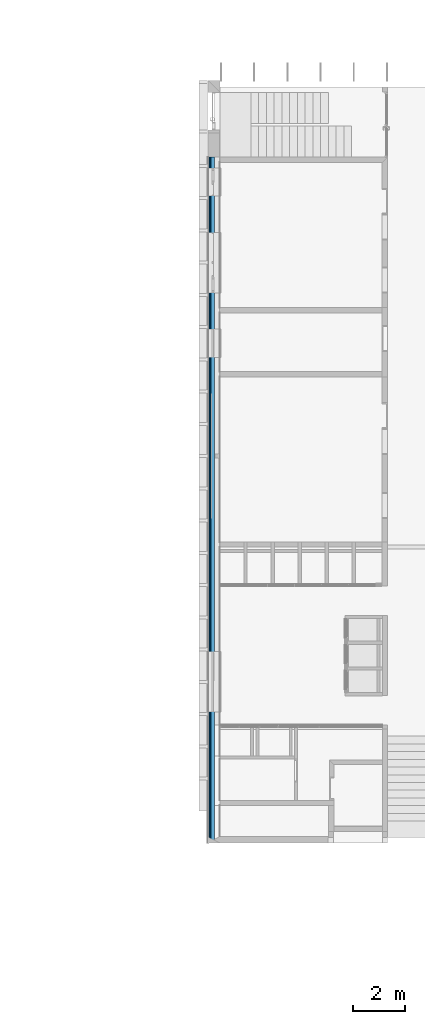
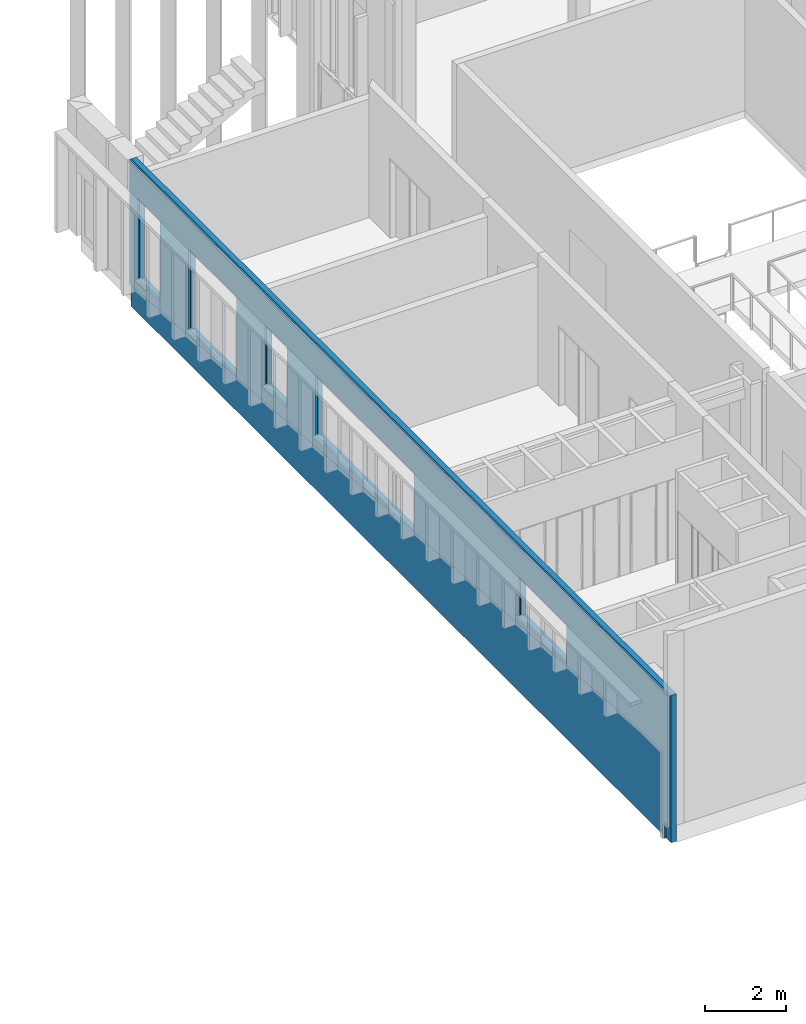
# One storey, part 80 of 89: 2 building element parts, 5 openings, 1 element without a shape of its own.
"""IFC2X3 building model written with IfcOpenShell, lengths in millimetres."""

from ifc_helpers import new_model, entity, si_unit, converted_unit, derived_unit, money_unit, direction, frame, origin_with_axes, origin_2d_with_axis, place, context, subcontext, project, spatial, polyline, rectangle, outline, extrude, boolean, faceted_brep, material, type_object, element, aggregate, save


model = new_model("IFC2X3")

# Units and contexts
model_context = context("Model", 3, precision=0.01, world=origin_with_axes(), true_north=direction((0.0, 1.0)))
body_context = subcontext(model_context, "Body", "Model", "MODEL_VIEW")
ifc_project = project(units=[si_unit("LENGTHUNIT", "METRE", prefix="MILLI"), si_unit("AREAUNIT", "SQUARE_METRE"), si_unit("VOLUMEUNIT", "CUBIC_METRE"), converted_unit("PLANEANGLEUNIT", "DEGREE", entity("IfcPlaneAngleMeasure", 0.0174532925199), si_unit("PLANEANGLEUNIT", "RADIAN"), dimensions=[0, 0, 0, 0, 0, 0, 0]), si_unit("SOLIDANGLEUNIT", "STERADIAN"), money_unit("EUR"), converted_unit("TIMEUNIT", "Year", entity("IfcTimeMeasure", 31556926.0), si_unit("TIMEUNIT", "SECOND"), dimensions=[0, 0, 1, 0, 0, 0, 0]), si_unit("MASSUNIT", "GRAM", prefix="KILO"), si_unit("THERMODYNAMICTEMPERATUREUNIT", "DEGREE_CELSIUS"), si_unit("LUMINOUSINTENSITYUNIT", "LUMEN"), si_unit("ENERGYUNIT", "JOULE", prefix="MEGA"), derived_unit("THERMALCONDUCTANCEUNIT", [(si_unit("POWERUNIT", "WATT"), 1), (si_unit("LENGTHUNIT", "METRE"), -1), (si_unit("THERMODYNAMICTEMPERATUREUNIT", "KELVIN"), -1)]), derived_unit("SPECIFICHEATCAPACITYUNIT", [(si_unit("ENERGYUNIT", "JOULE"), 1), (si_unit("MASSUNIT", "GRAM", prefix="KILO"), -1), (si_unit("THERMODYNAMICTEMPERATUREUNIT", "KELVIN"), -1)]), derived_unit("MASSDENSITYUNIT", [(si_unit("MASSUNIT", "GRAM", prefix="KILO"), 1), (si_unit("VOLUMEUNIT", "CUBIC_METRE"), -1)])], contexts=[model_context])

# Site, building, storey
site_placement = place(None, origin_with_axes())
site = spatial("IfcSite", under=ifc_project, at=site_placement, Name="Puškini 31, Narva", CompositionType="ELEMENT")
building_placement = place(site_placement, origin_with_axes())
building = spatial("IfcBuilding", under=site, at=building_placement, Name="Narva Riigigümnaasium", CompositionType="ELEMENT")
storey_placement = place(building_placement, frame((0.0, 0.0, -3300.0), z_axis=(0.0, 0.0, 1.0), x_axis=(1.0, 0.0, 0.0)))
storey = spatial("IfcBuildingStorey", under=building, at=storey_placement, Name="1.korrus -3.3", CompositionType="ELEMENT", Elevation=-3300.0)

# Wall, openings, building element parts
wall_type = type_object("IfcWallType", Name="G-VS-01 468", PredefinedType="NOTDEFINED")
wall_placement = place(storey_placement, frame((28400.0401775, 194950.0, -470.0), z_axis=(0.0, 0.0, 1.0), x_axis=(0.0, 1.0, 0.0)))
wall = element("IfcWall", 1, at=wall_placement, inside=storey, type_object=wall_type, Name="Välissein")
opening_1_placement = place(wall_placement, frame((22239.786406, 0.0, 1070.0), z_axis=(0.0, 0.0, 1.0), x_axis=(1.0, 0.0, 0.0)))
element("IfcOpeningElement", 2, at=opening_1_placement, cuts=wall, Name="G-A-13", context=body_context, shape_type="SweptSolid", body=[
    extrude(rectangle(XDim=2349.99999895, YDim=2430.0, at=origin_2d_with_axis()), frame((0.0, 308.0, 1215.0), z_axis=(0.0, -1.0, 0.0), x_axis=(1.0, 0.0, 0.0)), (0.0, 0.0, 1.0), 786.0),
    extrude(rectangle(XDim=2349.99999895, YDim=2430.0, at=origin_2d_with_axis()), frame((0.0, 308.0, 1215.0), z_axis=(0.0, 1.0, 0.0), x_axis=(1.0, 0.0, 0.0)), (0.0, 0.0, 1.0), 618.0),
])
opening_2_placement = place(wall_placement, frame((5989.77846398, 0.0, 2320.0), z_axis=(0.0, 0.0, 1.0), x_axis=(1.0, 0.0, 0.0)))
element("IfcOpeningElement", 3, at=opening_2_placement, cuts=wall, Name="G-A-31", context=body_context, shape_type="SweptSolid", body=[
    extrude(rectangle(XDim=2350.00149091, YDim=1180.0, at=origin_2d_with_axis()), frame((0.0, 308.0, 590.0), z_axis=(0.0, 1.0, 0.0), x_axis=(-1.0, 0.0, 0.0)), (0.0, 0.0, -1.0), 786.0),
    extrude(rectangle(XDim=2350.00149091, YDim=1180.0, at=origin_2d_with_axis()), frame((0.0, 308.0, 590.0), z_axis=(0.0, -1.0, 0.0), x_axis=(-1.0, 0.0, 0.0)), (0.0, 0.0, -1.0), 618.0),
])
opening_3_placement = place(wall_placement, frame((19114.7792041, 0.0, 1680.0), z_axis=(0.0, 0.0, 1.0), x_axis=(1.0, 0.0, 0.0)))
element("IfcOpeningElement", 4, at=opening_3_placement, cuts=wall, Name="G-A-28", context=body_context, shape_type="SweptSolid", body=[
    extrude(rectangle(XDim=1099.99999951, YDim=1820.0, at=origin_2d_with_axis()), frame((0.0, 308.0, 910.0), z_axis=(0.0, 1.0, 0.0), x_axis=(-1.0, 0.0, 0.0)), (0.0, 0.0, -1.0), 786.0),
    extrude(rectangle(XDim=1099.99999951, YDim=1820.0, at=origin_2d_with_axis()), frame((0.0, 308.0, 910.0), z_axis=(0.0, -1.0, 0.0), x_axis=(-1.0, 0.0, 0.0)), (0.0, 0.0, -1.0), 618.0),
])
opening_4_placement = place(wall_placement, frame((25364.7792014, 0.0, 1070.0), z_axis=(0.0, 0.0, 1.0), x_axis=(1.0, 0.0, 0.0)))
element("IfcOpeningElement", 5, at=opening_4_placement, cuts=wall, Name="G-A-03", context=body_context, shape_type="SweptSolid", body=[
    extrude(rectangle(XDim=1099.99999951, YDim=2430.0, at=origin_2d_with_axis()), frame((0.0, 308.0, 1215.0), z_axis=(0.0, 1.0, 0.0), x_axis=(-1.0, 0.0, 0.0)), (0.0, 0.0, -1.0), 786.0),
    extrude(rectangle(XDim=1099.99999951, YDim=2430.0, at=origin_2d_with_axis()), frame((0.0, 308.0, 1215.0), z_axis=(0.0, -1.0, 0.0), x_axis=(-1.0, 0.0, 0.0)), (0.0, 0.0, -1.0), 618.0),
])
opening_5_placement = place(wall_placement, frame((14739.7780345, 0.0, 1680.0), z_axis=(0.0, 0.0, 1.0), x_axis=(1.0, 0.0, 0.0)))
element("IfcOpeningElement", 6, at=opening_5_placement, cuts=wall, Name="G-A-32", context=body_context, shape_type="SweptSolid", body=[
    extrude(rectangle(XDim=4850.0, YDim=1820.0, at=origin_2d_with_axis()), frame((0.0, 308.0, 910.0), z_axis=(0.0, 1.0, 0.0), x_axis=(-1.0, 0.0, 0.0)), (0.0, 0.0, -1.0), 786.0),
    extrude(rectangle(XDim=4850.0, YDim=1820.0, at=origin_2d_with_axis()), frame((0.0, 308.0, 910.0), z_axis=(0.0, -1.0, 0.0), x_axis=(-1.0, 0.0, 0.0)), (0.0, 0.0, -1.0), 618.0),
])
ifc_material = material(Name="Salto-PIR soojustus")
building_element_part_1_placement = place(wall_placement, origin_with_axes())
solid_1 = boolean("DIFFERENCE", boolean("DIFFERENCE", boolean("DIFFERENCE", boolean("DIFFERENCE", boolean("DIFFERENCE", boolean("DIFFERENCE", boolean("DIFFERENCE", boolean("DIFFERENCE", extrude(outline(polyline([(-250.000000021, 200.0), (26329.9999995, 200.0), (26329.9999995, 350.0), (-250.000000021, 350.0), (-250.000000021, 200.0)])), frame((0.0, 0.0, -3.77662452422e-05), z_axis=(0.0, 0.0, 1.0), x_axis=(1.0, 0.0, 0.0)), (0.0, 0.0, 1.0), 4430.00003777), faceted_brep([(1190.52853669, 0.0, 4025.0), (1190.52853669, 0.0, 4430.0), (26329.9999995, 0.0, 4430.0), (26329.9999995, 0.0, -3.77662452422e-05), (-250.000000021, 0.0, -3.77662452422e-05), (-250.000000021, 0.0, 4430.0), (2.070521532e-07, 0.0, 4430.0), (2.070521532e-07, 0.0, 470.0), (1049.7643016, 0.0, 470.0), (1049.7643016, 0.0, 2544.59009685), (1199.99999458, 0.0, 2533.56443721), (1199.99999458, 0.0, 4025.0), (1399.99999458, 0.0, 2518.88662074), (3009.99970185, 0.0, 2400.73021962), (3009.99970185, 0.0, 4025.0), (1399.99999458, 0.0, 4025.0), (3109.99970185, 0.0, 2393.39131138), (11024.9997106, 0.0, 1812.51672386), (11024.9997106, 0.0, 4025.0), (9809.99971924, 0.0, 4025.0), (9809.99971924, 0.0, 2870.0), (9709.99971924, 0.0, 2870.0), (9709.99971924, 0.0, 4025.0), (4309.99971617, 0.0, 4025.0), (4309.99971617, 0.0, 2870.0), (4159.99971617, 0.0, 2870.0), (4159.99971617, 0.0, 4025.0), (3109.99970185, 0.0, 4025.0), (11115.4997106, 0.0, 1805.87501191), (11209.9997093, 0.0, 1798.93974372), (11209.9997107, 0.0, 4025.0), (11115.4997106, 0.0, 4025.0), (11409.9997107, 0.0, 1784.26192714), (17820.0010182, 0.0, 1313.83781325), (17820.0010182, 0.0, 4025.0), (11409.9997107, 0.0, 4025.0), (18020.0010182, 0.0, 1299.15999678), (20290.0000006, 0.0, 1132.56685451), (20290.0000006, 0.0, 4025.0), (18020.0010182, 0.0, 4025.0), (20500.0000006, 0.0, 1117.15514721), (26129.9999995, 0.0, 703.974613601), (26129.9999995, 0.0, 4025.0), (20500.0000006, 0.0, 4025.0), (1190.52734088, -10.0, 4025.0), (1190.52734088, -10.0, 4430.0), (26329.9999995, -10.0, 4430.0), (26329.9999995, -10.0, -3.77662452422e-05), (-250.000000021, -10.0, -3.77662452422e-05), (-250.000000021, -10.0, 4430.0), (2.070521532e-07, -10.0, 4430.0), (2.070521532e-07, -10.0, 470.0), (1049.7643016, -10.0, 470.0), (1049.7643016, -10.0, 2544.59009685), (1199.99999458, -10.0, 2533.56443721), (1199.99999458, -10.0, 4025.0), (1399.99999458, -10.0, 2518.88662074), (3009.99970185, -10.0, 2400.73021962), (3009.99970185, -10.0, 4025.0), (1399.99999458, -10.0, 4025.0), (3109.99970185, -10.0, 2393.39131138), (11024.9997106, -10.0, 1812.51672386), (11024.9997106, -10.0, 4025.0), (9809.99971924, -10.0, 4025.0), (9809.99971924, -10.0, 2870.0), (9709.99971924, -10.0, 2870.0), (9709.99971924, -10.0, 4025.0), (4309.99971617, -10.0, 4025.0), (4309.99971617, -10.0, 2870.0), (4159.99971617, -10.0, 2870.0), (4159.99971617, -10.0, 4025.0), (3109.99970185, -10.0, 4025.0), (11115.4997106, -10.0, 1805.87501191), (11209.9997093, -10.0, 1798.93974372), (11209.9997107, -10.0, 4025.0), (11115.4997106, -10.0, 4025.0), (11409.9997107, -10.0, 1784.26192714), (17820.0010182, -10.0, 1313.83781325), (17820.0010182, -10.0, 4025.0), (11409.9997107, -10.0, 4025.0), (18020.0010182, -10.0, 1299.15999678), (20290.0000006, -10.0, 1132.56685451), (20290.0000006, -10.0, 4025.0), (18020.0010182, -10.0, 4025.0), (20500.0000006, -10.0, 1117.15514721), (26129.9999995, -10.0, 703.974613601), (26129.9999995, -10.0, 4025.0), (20500.0000006, -10.0, 4025.0)], [[[0, 1, 2, 3, 4, 5, 6, 7, 8, 9, 10, 11], [12, 13, 14, 15], [16, 17, 18, 19, 20, 21, 22, 23, 24, 25, 26, 27], [28, 29, 30, 31], [32, 33, 34, 35], [36, 37, 38, 39], [40, 41, 42, 43]], [[44, 45, 1, 0]], [[1, 45, 46, 2]], [[2, 46, 47, 3]], [[3, 47, 48, 4]], [[49, 5, 4, 48]], [[50, 6, 5, 49]], [[6, 50, 51, 7]], [[51, 52, 8, 7]], [[52, 53, 9, 8]], [[53, 54, 10, 9]], [[54, 55, 11, 10]], [[55, 44, 0, 11]], [[56, 57, 13, 12]], [[57, 58, 14, 13]], [[58, 59, 15, 14]], [[59, 56, 12, 15]], [[60, 61, 17, 16]], [[61, 62, 18, 17]], [[62, 63, 19, 18]], [[63, 64, 20, 19]], [[64, 65, 21, 20]], [[65, 66, 22, 21]], [[66, 67, 23, 22]], [[67, 68, 24, 23]], [[68, 69, 25, 24]], [[69, 70, 26, 25]], [[70, 71, 27, 26]], [[71, 60, 16, 27]], [[72, 73, 29, 28]], [[73, 74, 30, 29]], [[74, 75, 31, 30]], [[75, 72, 28, 31]], [[76, 77, 33, 32]], [[77, 78, 34, 33]], [[78, 79, 35, 34]], [[79, 76, 32, 35]], [[80, 81, 37, 36]], [[81, 82, 38, 37]], [[82, 83, 39, 38]], [[83, 80, 36, 39]], [[84, 85, 41, 40]], [[85, 86, 42, 41]], [[86, 87, 43, 42]], [[87, 84, 40, 43]], [[45, 44, 55, 54, 53, 52, 51, 50, 49, 48, 47, 46], [64, 63, 62, 61, 60, 71, 70, 69, 68, 67, 66, 65], [56, 59, 58, 57], [72, 75, 74, 73], [76, 79, 78, 77], [80, 83, 82, 81], [84, 87, 86, 85]]])), faceted_brep([(0.0, 0.0, 0.0), (2.070521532e-07, 0.0, 470.0), (2.070521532e-07, 0.0, 4430.0), (-250.000000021, 0.0, 4430.0), (-250.000000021, 0.0, -3.77662452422e-05), (0.0, 200.0, 0.0), (2.070521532e-07, 200.0, 470.0), (2.070521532e-07, 200.0, 4430.0), (-250.000000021, 200.0, 4430.0), (-250.000000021, 200.0, -3.77662452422e-05)], [[[0, 1, 2, 3, 4]], [[1, 0, 5, 6]], [[7, 2, 1, 6]], [[2, 7, 8, 3]], [[3, 8, 9, 4]], [[5, 0, 4, 9]], [[6, 5, 9, 8, 7]]])), faceted_brep([(20500.0000006, 0.0, 4025.0), (26329.9999807, 0.0, 4025.0), (26329.9999995, 0.0, 4430.0), (1190.52853669, 0.0, 4430.0), (1190.52853669, 0.0, 4025.0), (20300.0000006, 0.0, 4025.0), (20300.0000006, 0.0, 1131.83296368), (20290.0000006, 0.0, 1132.56685451), (18020.0010182, 0.0, 1299.15999678), (17820.0010182, 0.0, 1313.83781325), (11409.9997107, 0.0, 1784.26192714), (11209.9997093, 0.0, 1798.93974372), (11115.4997106, 0.0, 1805.87501191), (11024.9997106, 0.0, 1812.51672386), (3109.99970185, 0.0, 2393.39131138), (3009.99970185, 0.0, 2400.73021962), (1399.99999458, 0.0, 2518.88662074), (1199.99999458, 0.0, 2533.56443721), (1049.7643016, 0.0, 2544.59009685), (1049.7643016, 0.0, 470.0), (1049.7643016, 0.0, 0.0), (26329.9999995, 0.0, -3.77662452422e-05), (26329.9999959, 0.0, 689.296797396), (26129.9999995, 0.0, 703.974613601), (20500.0000006, 0.0, 1117.15514721), (26329.9999807, 200.0, 4025.0), (20500.0000006, 0.53657374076, 4025.0), (20300.0000006, 0.53657374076, 4025.0), (1190.55245282, 200.0, 4025.0), (26329.9999995, 200.0, 4430.0), (1190.55245282, 200.0, 4430.0), (20300.0000006, 0.53657374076, 1131.83296368), (26329.9999974, 200.0, 689.29679728), (1049.7643016, 200.0, 2544.59009685), (1049.7643016, 76.496918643, 2544.59009685), (20500.0000006, 0.53657374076, 1117.15514721), (1049.7643016, 76.496918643, -3.77662452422e-05), (126.000000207, 76.496918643, -3.77662452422e-05), (126.000000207, 200.0, -3.77662452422e-05), (26329.9999995, 200.0, -3.77662452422e-05), (126.000000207, 200.0, 2544.59009685), (126.000000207, 76.496918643, 2544.59009685)], [[[0, 1, 2, 3, 4, 5, 6, 7, 8, 9, 10, 11, 12, 13, 14, 15, 16, 17, 18, 19, 20, 21, 22, 23, 24]], [[25, 1, 0, 26, 27, 5, 4, 28]], [[1, 25, 29, 2]], [[30, 3, 2, 29]], [[3, 30, 28, 4]], [[6, 5, 27, 31]], [[23, 22, 32, 33, 34, 18, 17, 16, 15, 14, 13, 12, 11, 10, 9, 8, 7, 6, 31, 35, 24]], [[19, 18, 34, 36, 20]], [[37, 38, 39, 21, 20, 36]], [[32, 22, 21, 39]], [[26, 0, 24, 35]], [[27, 26, 35, 31]], [[28, 30, 29, 25]], [[33, 32, 39, 38, 40]], [[33, 40, 41, 34]], [[37, 36, 34, 41]], [[38, 37, 41, 40]]])), faceted_brep([(14664.7643016, 25.3626792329, 3570.0), (14664.7643016, 25.3626792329, 1580.0), (14814.7643016, 25.3626792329, 1580.0), (14814.7643016, 25.3626792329, 3570.0), (14664.7643016, 175.362679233, 3570.0), (14664.7643016, 175.362679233, 1580.0), (14814.7643016, 175.362679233, 1580.0), (14814.7643016, 175.362679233, 3570.0)], [[[0, 1, 2, 3]], [[4, 5, 1, 0]], [[2, 1, 5, 6]], [[3, 2, 6, 7]], [[4, 0, 3, 7]], [[7, 6, 5, 4]]])), faceted_brep([(2.070521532e-07, 200.0, 470.0), (-249.999999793, 200.0, 470.0), (-250.000000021, 200.0, -3.77662452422e-05), (0.0, 200.0, 0.0), (5.17559328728e-08, 350.0, 470.0), (-249.999999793, 350.0, 470.0), (-250.000000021, 350.0, -3.77662452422e-05), (0.0, 350.0, 0.0)], [[[0, 1, 2, 3]], [[1, 0, 4, 5]], [[1, 5, 6, 2]], [[7, 3, 2, 6]], [[0, 3, 7, 4]], [[4, 7, 6, 5]]])), faceted_brep([(26329.9999986, 350.0, 689.296797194), (26329.9999974, 200.0, 689.29679728), (26329.9999995, 200.0, -3.77662452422e-05), (26329.9999995, 350.0, -3.77662452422e-05), (1049.7643016, 200.0, 2544.59009685), (1049.7643016, 350.0, 2544.59009685), (126.000000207, 200.0, 2544.59009685), (126.000000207, 200.0, -3.77662452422e-05), (126.000000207, 350.0, -3.77662452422e-05), (126.000000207, 350.0, 2544.59009685)], [[[0, 1, 2, 3]], [[4, 1, 0, 5]], [[6, 7, 2, 1, 4]], [[7, 8, 3, 2]], [[5, 0, 3, 8, 9]], [[6, 4, 5, 9]], [[7, 6, 9, 8]]])), faceted_brep([(1190.55245282, 200.0, 4430.0), (1190.55245282, 200.0, 4025.0), (26329.9999807, 200.0, 4025.0), (26329.9999995, 200.0, 4430.0), (1190.56670296, 319.167572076, 4430.0), (1190.56670296, 319.167572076, 4025.0), (26329.9999807, 200.721723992, 4025.0), (1550.00000039, 319.151333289, 4025.0), (5649.99999723, 318.966099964, 4025.0), (5649.99999723, 200.721723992, 4025.0), (26329.9999807, 200.721723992, 4430.0), (5649.99999723, 200.721723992, 4430.0), (5649.99999723, 319.15132641, 4430.0), (1550.00000039, 319.151333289, 4430.0), (1550.00000039, 319.151333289, 4290.0), (5649.99999723, 318.966099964, 4290.0), (5649.99999723, 319.15132641, 4290.0)], [[[0, 1, 2, 3]], [[0, 4, 5, 1]], [[6, 2, 1, 5, 7, 8, 9]], [[6, 10, 3, 2]], [[4, 0, 3, 10, 11, 12, 13]], [[4, 13, 14, 7, 5]], [[15, 8, 7, 14]], [[12, 11, 9, 8, 15, 16]], [[11, 10, 6, 9]], [[13, 12, 16, 14]], [[16, 15, 14]]])), faceted_brep([(5.17559328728e-08, 350.0, 470.0), (-249.999999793, 350.0, 470.0), (-250.000000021, 350.0, -3.77662452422e-05), (0.0, 350.0, 0.0), (0.0, 400.0, 470.0), (-249.999999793, 400.0, 470.0), (-250.000000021, 400.0, -3.77662452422e-05), (0.0, 400.0, 0.0)], [[[0, 1, 2, 3]], [[1, 0, 4, 5]], [[1, 5, 6, 2]], [[7, 3, 2, 6]], [[0, 3, 7, 4]], [[4, 7, 6, 5]]]))
building_element_part_1 = element("IfcBuildingElementPart", 7, at=building_element_part_1_placement, material=ifc_material, Name="Salto-PIR soojustus", context=body_context, shape_type="CSG", body=[
    boolean("DIFFERENCE", boolean("DIFFERENCE", boolean("DIFFERENCE", boolean("DIFFERENCE", boolean("DIFFERENCE", solid_1, faceted_brep([(26329.999999, 400.0, 689.296797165), (26329.9999986, 350.0, 689.296797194), (26329.9999995, 350.0, -3.77662452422e-05), (26329.9999995, 400.0, -3.77662452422e-05), (1049.7643016, 350.0, 2544.59009685), (1049.7643016, 400.0, 2544.59009685), (126.000000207, 350.0, 2544.59009685), (126.000000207, 350.0, -3.77662452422e-05), (126.000000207, 400.0, -3.77662452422e-05), (126.000000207, 400.0, 2544.59009685)], [[[0, 1, 2, 3]], [[4, 1, 0, 5]], [[6, 7, 2, 1, 4]], [[7, 8, 3, 2]], [[5, 0, 3, 8, 9]], [[6, 4, 5, 9]], [[7, 6, 9, 8]]])), faceted_brep([(0.0, 400.0, 470.0), (-249.999999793, 400.0, 470.0), (-250.000000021, 400.0, -3.77662452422e-05), (0.0, 400.0, 0.0), (0.0, 450.0, 470.0), (-249.999999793, 450.0, 470.0), (-250.000000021, 450.0, -3.77662452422e-05), (0.0, 450.0, 0.0)], [[[0, 1, 2, 3]], [[1, 0, 4, 5]], [[1, 5, 6, 2]], [[7, 3, 2, 6]], [[0, 3, 7, 4]], [[4, 7, 6, 5]]])), faceted_brep([(26329.999999, 450.0, 689.296797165), (26329.999999, 400.0, 689.296797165), (26329.9999995, 400.0, -3.77662452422e-05), (26329.9999995, 450.0, -3.77662452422e-05), (1049.7643016, 400.0, 2544.59009685), (1049.7643016, 450.0, 2544.59009685), (126.000000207, 400.0, 2544.59009685), (126.000000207, 400.0, -3.77662452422e-05), (126.000000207, 450.0, -3.77662452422e-05), (126.000000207, 450.0, 2544.59009685)], [[[0, 1, 2, 3]], [[4, 1, 0, 5]], [[6, 7, 2, 1, 4]], [[7, 8, 3, 2]], [[5, 0, 3, 8, 9]], [[6, 4, 5, 9]], [[7, 6, 9, 8]]])), faceted_brep([(0.0, 450.0, 470.0), (-249.999999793, 450.0, 470.0), (-250.000000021, 450.0, -3.77662452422e-05), (0.0, 450.0, 0.0), (0.0, 458.000002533, 470.0), (-249.999999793, 458.000002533, 470.0), (-250.000000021, 458.0, -3.77662452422e-05), (0.0, 458.000002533, 0.0)], [[[0, 1, 2, 3]], [[1, 0, 4, 5]], [[1, 5, 6, 2]], [[7, 3, 2, 6]], [[0, 3, 7, 4]], [[4, 7, 6, 5]]])), faceted_brep([(26329.999999, 457.999977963, 689.296797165), (26329.999999, 450.0, 689.296797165), (26329.9999995, 450.0, -3.77662452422e-05), (26329.9999995, 458.0, -3.77662452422e-05), (1049.7643016, 450.0, 2544.59009685), (1049.7643016, 458.0, 2544.59009685), (126.000000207, 450.0, 2544.59009685), (126.000000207, 450.0, -3.77662452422e-05), (126.000000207, 458.000002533, -3.77662452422e-05), (126.000000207, 458.0, 2544.59009685)], [[[0, 1, 2, 3]], [[4, 1, 0, 5]], [[6, 7, 2, 1, 4]], [[7, 8, 3, 2]], [[5, 0, 3, 8, 9]], [[6, 4, 5, 9]], [[7, 6, 9, 8]]])),
])
building_element_part_2_placement = place(wall_placement, origin_with_axes())
solid_2 = boolean("DIFFERENCE", boolean("DIFFERENCE", boolean("DIFFERENCE", boolean("DIFFERENCE", boolean("DIFFERENCE", boolean("DIFFERENCE", boolean("DIFFERENCE", boolean("DIFFERENCE", extrude(outline(polyline([(-250.000000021, 350.0), (26329.9999995, 350.0), (26329.9999995, 400.0), (-250.000000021, 400.0), (-250.000000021, 350.0)])), frame((0.0, 0.0, -3.77662452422e-05), z_axis=(0.0, 0.0, 1.0), x_axis=(1.0, 0.0, 0.0)), (0.0, 0.0, 1.0), 4430.00003777), faceted_brep([(1190.52853669, 0.0, 4025.0), (1190.52853669, 0.0, 4430.0), (26329.9999995, 0.0, 4430.0), (26329.9999995, 0.0, -3.77662452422e-05), (-250.000000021, 0.0, -3.77662452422e-05), (-250.000000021, 0.0, 4430.0), (2.070521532e-07, 0.0, 4430.0), (2.070521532e-07, 0.0, 470.0), (1049.7643016, 0.0, 470.0), (1049.7643016, 0.0, 2544.59009685), (1199.99999458, 0.0, 2533.56443721), (1199.99999458, 0.0, 4025.0), (1399.99999458, 0.0, 2518.88662074), (3009.99970185, 0.0, 2400.73021962), (3009.99970185, 0.0, 4025.0), (1399.99999458, 0.0, 4025.0), (3109.99970185, 0.0, 2393.39131138), (11024.9997106, 0.0, 1812.51672386), (11024.9997106, 0.0, 4025.0), (9809.99971924, 0.0, 4025.0), (9809.99971924, 0.0, 2870.0), (9709.99971924, 0.0, 2870.0), (9709.99971924, 0.0, 4025.0), (4309.99971617, 0.0, 4025.0), (4309.99971617, 0.0, 2870.0), (4159.99971617, 0.0, 2870.0), (4159.99971617, 0.0, 4025.0), (3109.99970185, 0.0, 4025.0), (11115.4997106, 0.0, 1805.87501191), (11209.9997093, 0.0, 1798.93974372), (11209.9997107, 0.0, 4025.0), (11115.4997106, 0.0, 4025.0), (11409.9997107, 0.0, 1784.26192714), (17820.0010182, 0.0, 1313.83781325), (17820.0010182, 0.0, 4025.0), (11409.9997107, 0.0, 4025.0), (18020.0010182, 0.0, 1299.15999678), (20290.0000006, 0.0, 1132.56685451), (20290.0000006, 0.0, 4025.0), (18020.0010182, 0.0, 4025.0), (20500.0000006, 0.0, 1117.15514721), (26129.9999995, 0.0, 703.974613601), (26129.9999995, 0.0, 4025.0), (20500.0000006, 0.0, 4025.0), (1190.52734088, -10.0, 4025.0), (1190.52734088, -10.0, 4430.0), (26329.9999995, -10.0, 4430.0), (26329.9999995, -10.0, -3.77662452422e-05), (-250.000000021, -10.0, -3.77662452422e-05), (-250.000000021, -10.0, 4430.0), (2.070521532e-07, -10.0, 4430.0), (2.070521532e-07, -10.0, 470.0), (1049.7643016, -10.0, 470.0), (1049.7643016, -10.0, 2544.59009685), (1199.99999458, -10.0, 2533.56443721), (1199.99999458, -10.0, 4025.0), (1399.99999458, -10.0, 2518.88662074), (3009.99970185, -10.0, 2400.73021962), (3009.99970185, -10.0, 4025.0), (1399.99999458, -10.0, 4025.0), (3109.99970185, -10.0, 2393.39131138), (11024.9997106, -10.0, 1812.51672386), (11024.9997106, -10.0, 4025.0), (9809.99971924, -10.0, 4025.0), (9809.99971924, -10.0, 2870.0), (9709.99971924, -10.0, 2870.0), (9709.99971924, -10.0, 4025.0), (4309.99971617, -10.0, 4025.0), (4309.99971617, -10.0, 2870.0), (4159.99971617, -10.0, 2870.0), (4159.99971617, -10.0, 4025.0), (3109.99970185, -10.0, 4025.0), (11115.4997106, -10.0, 1805.87501191), (11209.9997093, -10.0, 1798.93974372), (11209.9997107, -10.0, 4025.0), (11115.4997106, -10.0, 4025.0), (11409.9997107, -10.0, 1784.26192714), (17820.0010182, -10.0, 1313.83781325), (17820.0010182, -10.0, 4025.0), (11409.9997107, -10.0, 4025.0), (18020.0010182, -10.0, 1299.15999678), (20290.0000006, -10.0, 1132.56685451), (20290.0000006, -10.0, 4025.0), (18020.0010182, -10.0, 4025.0), (20500.0000006, -10.0, 1117.15514721), (26129.9999995, -10.0, 703.974613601), (26129.9999995, -10.0, 4025.0), (20500.0000006, -10.0, 4025.0)], [[[0, 1, 2, 3, 4, 5, 6, 7, 8, 9, 10, 11], [12, 13, 14, 15], [16, 17, 18, 19, 20, 21, 22, 23, 24, 25, 26, 27], [28, 29, 30, 31], [32, 33, 34, 35], [36, 37, 38, 39], [40, 41, 42, 43]], [[44, 45, 1, 0]], [[1, 45, 46, 2]], [[2, 46, 47, 3]], [[3, 47, 48, 4]], [[49, 5, 4, 48]], [[50, 6, 5, 49]], [[6, 50, 51, 7]], [[51, 52, 8, 7]], [[52, 53, 9, 8]], [[53, 54, 10, 9]], [[54, 55, 11, 10]], [[55, 44, 0, 11]], [[56, 57, 13, 12]], [[57, 58, 14, 13]], [[58, 59, 15, 14]], [[59, 56, 12, 15]], [[60, 61, 17, 16]], [[61, 62, 18, 17]], [[62, 63, 19, 18]], [[63, 64, 20, 19]], [[64, 65, 21, 20]], [[65, 66, 22, 21]], [[66, 67, 23, 22]], [[67, 68, 24, 23]], [[68, 69, 25, 24]], [[69, 70, 26, 25]], [[70, 71, 27, 26]], [[71, 60, 16, 27]], [[72, 73, 29, 28]], [[73, 74, 30, 29]], [[74, 75, 31, 30]], [[75, 72, 28, 31]], [[76, 77, 33, 32]], [[77, 78, 34, 33]], [[78, 79, 35, 34]], [[79, 76, 32, 35]], [[80, 81, 37, 36]], [[81, 82, 38, 37]], [[82, 83, 39, 38]], [[83, 80, 36, 39]], [[84, 85, 41, 40]], [[85, 86, 42, 41]], [[86, 87, 43, 42]], [[87, 84, 40, 43]], [[45, 44, 55, 54, 53, 52, 51, 50, 49, 48, 47, 46], [64, 63, 62, 61, 60, 71, 70, 69, 68, 67, 66, 65], [56, 59, 58, 57], [72, 75, 74, 73], [76, 79, 78, 77], [80, 83, 82, 81], [84, 87, 86, 85]]])), faceted_brep([(0.0, 0.0, 0.0), (2.070521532e-07, 0.0, 470.0), (2.070521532e-07, 0.0, 4430.0), (-250.000000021, 0.0, 4430.0), (-250.000000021, 0.0, -3.77662452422e-05), (0.0, 200.0, 0.0), (2.070521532e-07, 200.0, 470.0), (2.070521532e-07, 200.0, 4430.0), (-250.000000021, 200.0, 4430.0), (-250.000000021, 200.0, -3.77662452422e-05)], [[[0, 1, 2, 3, 4]], [[1, 0, 5, 6]], [[7, 2, 1, 6]], [[2, 7, 8, 3]], [[3, 8, 9, 4]], [[5, 0, 4, 9]], [[6, 5, 9, 8, 7]]])), faceted_brep([(20500.0000006, 0.0, 4025.0), (26329.9999807, 0.0, 4025.0), (26329.9999995, 0.0, 4430.0), (1190.52853669, 0.0, 4430.0), (1190.52853669, 0.0, 4025.0), (20300.0000006, 0.0, 4025.0), (20300.0000006, 0.0, 1131.83296368), (20290.0000006, 0.0, 1132.56685451), (18020.0010182, 0.0, 1299.15999678), (17820.0010182, 0.0, 1313.83781325), (11409.9997107, 0.0, 1784.26192714), (11209.9997093, 0.0, 1798.93974372), (11115.4997106, 0.0, 1805.87501191), (11024.9997106, 0.0, 1812.51672386), (3109.99970185, 0.0, 2393.39131138), (3009.99970185, 0.0, 2400.73021962), (1399.99999458, 0.0, 2518.88662074), (1199.99999458, 0.0, 2533.56443721), (1049.7643016, 0.0, 2544.59009685), (1049.7643016, 0.0, 470.0), (1049.7643016, 0.0, 0.0), (26329.9999995, 0.0, -3.77662452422e-05), (26329.9999959, 0.0, 689.296797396), (26129.9999995, 0.0, 703.974613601), (20500.0000006, 0.0, 1117.15514721), (26329.9999807, 200.0, 4025.0), (20500.0000006, 0.53657374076, 4025.0), (20300.0000006, 0.53657374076, 4025.0), (1190.55245282, 200.0, 4025.0), (26329.9999995, 200.0, 4430.0), (1190.55245282, 200.0, 4430.0), (20300.0000006, 0.53657374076, 1131.83296368), (26329.9999974, 200.0, 689.29679728), (1049.7643016, 200.0, 2544.59009685), (1049.7643016, 76.496918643, 2544.59009685), (20500.0000006, 0.53657374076, 1117.15514721), (1049.7643016, 76.496918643, -3.77662452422e-05), (126.000000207, 76.496918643, -3.77662452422e-05), (126.000000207, 200.0, -3.77662452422e-05), (26329.9999995, 200.0, -3.77662452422e-05), (126.000000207, 200.0, 2544.59009685), (126.000000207, 76.496918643, 2544.59009685)], [[[0, 1, 2, 3, 4, 5, 6, 7, 8, 9, 10, 11, 12, 13, 14, 15, 16, 17, 18, 19, 20, 21, 22, 23, 24]], [[25, 1, 0, 26, 27, 5, 4, 28]], [[1, 25, 29, 2]], [[30, 3, 2, 29]], [[3, 30, 28, 4]], [[6, 5, 27, 31]], [[23, 22, 32, 33, 34, 18, 17, 16, 15, 14, 13, 12, 11, 10, 9, 8, 7, 6, 31, 35, 24]], [[19, 18, 34, 36, 20]], [[37, 38, 39, 21, 20, 36]], [[32, 22, 21, 39]], [[26, 0, 24, 35]], [[27, 26, 35, 31]], [[28, 30, 29, 25]], [[33, 32, 39, 38, 40]], [[33, 40, 41, 34]], [[37, 36, 34, 41]], [[38, 37, 41, 40]]])), faceted_brep([(14664.7643016, 25.3626792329, 3570.0), (14664.7643016, 25.3626792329, 1580.0), (14814.7643016, 25.3626792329, 1580.0), (14814.7643016, 25.3626792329, 3570.0), (14664.7643016, 175.362679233, 3570.0), (14664.7643016, 175.362679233, 1580.0), (14814.7643016, 175.362679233, 1580.0), (14814.7643016, 175.362679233, 3570.0)], [[[0, 1, 2, 3]], [[4, 5, 1, 0]], [[2, 1, 5, 6]], [[3, 2, 6, 7]], [[4, 0, 3, 7]], [[7, 6, 5, 4]]])), faceted_brep([(2.070521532e-07, 200.0, 470.0), (-249.999999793, 200.0, 470.0), (-250.000000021, 200.0, -3.77662452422e-05), (0.0, 200.0, 0.0), (5.17559328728e-08, 350.0, 470.0), (-249.999999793, 350.0, 470.0), (-250.000000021, 350.0, -3.77662452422e-05), (0.0, 350.0, 0.0)], [[[0, 1, 2, 3]], [[1, 0, 4, 5]], [[1, 5, 6, 2]], [[7, 3, 2, 6]], [[0, 3, 7, 4]], [[4, 7, 6, 5]]])), faceted_brep([(26329.9999986, 350.0, 689.296797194), (26329.9999974, 200.0, 689.29679728), (26329.9999995, 200.0, -3.77662452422e-05), (26329.9999995, 350.0, -3.77662452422e-05), (1049.7643016, 200.0, 2544.59009685), (1049.7643016, 350.0, 2544.59009685), (126.000000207, 200.0, 2544.59009685), (126.000000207, 200.0, -3.77662452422e-05), (126.000000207, 350.0, -3.77662452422e-05), (126.000000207, 350.0, 2544.59009685)], [[[0, 1, 2, 3]], [[4, 1, 0, 5]], [[6, 7, 2, 1, 4]], [[7, 8, 3, 2]], [[5, 0, 3, 8, 9]], [[6, 4, 5, 9]], [[7, 6, 9, 8]]])), faceted_brep([(1190.55245282, 200.0, 4430.0), (1190.55245282, 200.0, 4025.0), (26329.9999807, 200.0, 4025.0), (26329.9999995, 200.0, 4430.0), (1190.56670296, 319.167572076, 4430.0), (1190.56670296, 319.167572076, 4025.0), (26329.9999807, 200.721723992, 4025.0), (1550.00000039, 319.151333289, 4025.0), (5649.99999723, 318.966099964, 4025.0), (5649.99999723, 200.721723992, 4025.0), (26329.9999807, 200.721723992, 4430.0), (5649.99999723, 200.721723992, 4430.0), (5649.99999723, 319.15132641, 4430.0), (1550.00000039, 319.151333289, 4430.0), (1550.00000039, 319.151333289, 4290.0), (5649.99999723, 318.966099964, 4290.0), (5649.99999723, 319.15132641, 4290.0)], [[[0, 1, 2, 3]], [[0, 4, 5, 1]], [[6, 2, 1, 5, 7, 8, 9]], [[6, 10, 3, 2]], [[4, 0, 3, 10, 11, 12, 13]], [[4, 13, 14, 7, 5]], [[15, 8, 7, 14]], [[12, 11, 9, 8, 15, 16]], [[11, 10, 6, 9]], [[13, 12, 16, 14]], [[16, 15, 14]]])), faceted_brep([(5.17559328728e-08, 350.0, 470.0), (-249.999999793, 350.0, 470.0), (-250.000000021, 350.0, -3.77662452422e-05), (0.0, 350.0, 0.0), (0.0, 400.0, 470.0), (-249.999999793, 400.0, 470.0), (-250.000000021, 400.0, -3.77662452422e-05), (0.0, 400.0, 0.0)], [[[0, 1, 2, 3]], [[1, 0, 4, 5]], [[1, 5, 6, 2]], [[7, 3, 2, 6]], [[0, 3, 7, 4]], [[4, 7, 6, 5]]]))
building_element_part_2 = element("IfcBuildingElementPart", 8, at=building_element_part_2_placement, material=ifc_material, Name="Salto-PIR soojustus", context=body_context, shape_type="CSG", body=[
    boolean("DIFFERENCE", boolean("DIFFERENCE", boolean("DIFFERENCE", boolean("DIFFERENCE", boolean("DIFFERENCE", solid_2, faceted_brep([(26329.999999, 400.0, 689.296797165), (26329.9999986, 350.0, 689.296797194), (26329.9999995, 350.0, -3.77662452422e-05), (26329.9999995, 400.0, -3.77662452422e-05), (1049.7643016, 350.0, 2544.59009685), (1049.7643016, 400.0, 2544.59009685), (126.000000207, 350.0, 2544.59009685), (126.000000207, 350.0, -3.77662452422e-05), (126.000000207, 400.0, -3.77662452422e-05), (126.000000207, 400.0, 2544.59009685)], [[[0, 1, 2, 3]], [[4, 1, 0, 5]], [[6, 7, 2, 1, 4]], [[7, 8, 3, 2]], [[5, 0, 3, 8, 9]], [[6, 4, 5, 9]], [[7, 6, 9, 8]]])), faceted_brep([(0.0, 400.0, 470.0), (-249.999999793, 400.0, 470.0), (-250.000000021, 400.0, -3.77662452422e-05), (0.0, 400.0, 0.0), (0.0, 450.0, 470.0), (-249.999999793, 450.0, 470.0), (-250.000000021, 450.0, -3.77662452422e-05), (0.0, 450.0, 0.0)], [[[0, 1, 2, 3]], [[1, 0, 4, 5]], [[1, 5, 6, 2]], [[7, 3, 2, 6]], [[0, 3, 7, 4]], [[4, 7, 6, 5]]])), faceted_brep([(26329.999999, 450.0, 689.296797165), (26329.999999, 400.0, 689.296797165), (26329.9999995, 400.0, -3.77662452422e-05), (26329.9999995, 450.0, -3.77662452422e-05), (1049.7643016, 400.0, 2544.59009685), (1049.7643016, 450.0, 2544.59009685), (126.000000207, 400.0, 2544.59009685), (126.000000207, 400.0, -3.77662452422e-05), (126.000000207, 450.0, -3.77662452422e-05), (126.000000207, 450.0, 2544.59009685)], [[[0, 1, 2, 3]], [[4, 1, 0, 5]], [[6, 7, 2, 1, 4]], [[7, 8, 3, 2]], [[5, 0, 3, 8, 9]], [[6, 4, 5, 9]], [[7, 6, 9, 8]]])), faceted_brep([(0.0, 450.0, 470.0), (-249.999999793, 450.0, 470.0), (-250.000000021, 450.0, -3.77662452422e-05), (0.0, 450.0, 0.0), (0.0, 458.000002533, 470.0), (-249.999999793, 458.000002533, 470.0), (-250.000000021, 458.0, -3.77662452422e-05), (0.0, 458.000002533, 0.0)], [[[0, 1, 2, 3]], [[1, 0, 4, 5]], [[1, 5, 6, 2]], [[7, 3, 2, 6]], [[0, 3, 7, 4]], [[4, 7, 6, 5]]])), faceted_brep([(26329.999999, 457.999977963, 689.296797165), (26329.999999, 450.0, 689.296797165), (26329.9999995, 450.0, -3.77662452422e-05), (26329.9999995, 458.0, -3.77662452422e-05), (1049.7643016, 450.0, 2544.59009685), (1049.7643016, 458.0, 2544.59009685), (126.000000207, 450.0, 2544.59009685), (126.000000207, 450.0, -3.77662452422e-05), (126.000000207, 458.000002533, -3.77662452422e-05), (126.000000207, 458.0, 2544.59009685)], [[[0, 1, 2, 3]], [[4, 1, 0, 5]], [[6, 7, 2, 1, 4]], [[7, 8, 3, 2]], [[5, 0, 3, 8, 9]], [[6, 4, 5, 9]], [[7, 6, 9, 8]]])),
])
aggregate(wall, [building_element_part_1, building_element_part_2])

save(model, "model.ifc")
